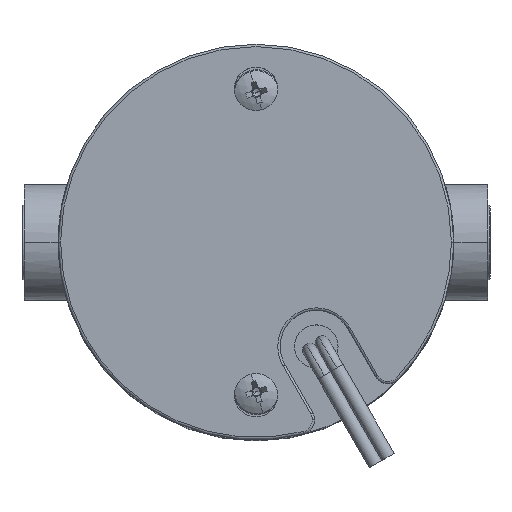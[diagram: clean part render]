
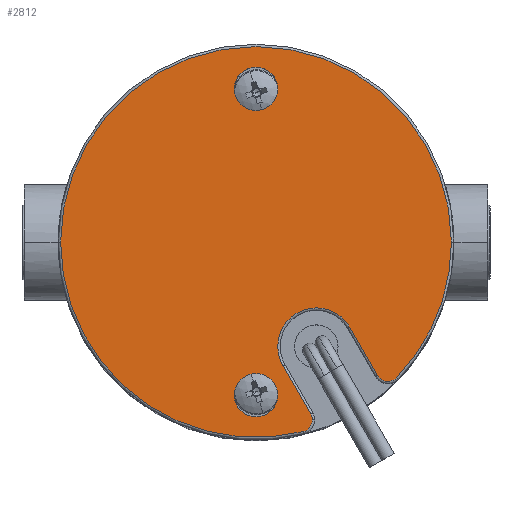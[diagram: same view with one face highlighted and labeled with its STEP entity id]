
A CAD part, top view. The second image highlights one B-rep face of the part: STEP entity #2812.
In plain terms, the highlighted planar face has unit normal (0, 0, 1).
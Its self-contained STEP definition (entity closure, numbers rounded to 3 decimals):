
#2 = DIRECTION ( 'NONE',  ( 1., 0., 0. ) ) ;
#6 = EDGE_CURVE ( 'NONE', #2225, #1074, #6711, .T. ) ;
#30 = CARTESIAN_POINT ( 'NONE',  ( 581.265, -185.174, 0. ) ) ;
#64 = AXIS2_PLACEMENT_3D ( 'NONE', #3112, #6365, #6334 ) ;
#202 = DIRECTION ( 'NONE',  ( 0., 0., -1. ) ) ;
#246 = DIRECTION ( 'NONE',  ( 0., 0., 1. ) ) ;
#337 = CARTESIAN_POINT ( 'NONE',  ( 595.535, -256.228, 0. ) ) ;
#383 = DIRECTION ( 'NONE',  ( 0., 0., 1. ) ) ;
#507 = VECTOR ( 'NONE', #2527, 1000. ) ;
#535 = ORIENTED_EDGE ( 'NONE', *, *, #2930, .T. ) ;
#591 = AXIS2_PLACEMENT_3D ( 'NONE', #3923, #656, #4481 ) ;
#635 = CARTESIAN_POINT ( 'NONE',  ( 545.265, -216.924, 0. ) ) ;
#656 = DIRECTION ( 'NONE',  ( 0., 0., 1. ) ) ;
#680 = LINE ( 'NONE', #5825, #507 ) ;
#683 = CARTESIAN_POINT ( 'NONE',  ( 594.932, -253.802, 0. ) ) ;
#684 = AXIS2_PLACEMENT_3D ( 'NONE', #1569, #5410, #2117 ) ;
#727 = EDGE_CURVE ( 'NONE', #6019, #2225, #5329, .T. ) ;
#792 = ORIENTED_EDGE ( 'NONE', *, *, #2720, .F. ) ;
#946 = CARTESIAN_POINT ( 'NONE',  ( 591.336, -242.575, 0. ) ) ;
#1023 = VECTOR ( 'NONE', #3247, 1000. ) ;
#1062 = CARTESIAN_POINT ( 'NONE',  ( 591.336, -242.575, 0. ) ) ;
#1074 = VERTEX_POINT ( 'NONE', #337 ) ;
#1093 = EDGE_CURVE ( 'NONE', #3130, #5616, #3029, .T. ) ;
#1129 = ORIENTED_EDGE ( 'NONE', *, *, #2247, .T. ) ;
#1241 = DIRECTION ( 'NONE',  ( 1., 0., 0. ) ) ;
#1347 = EDGE_CURVE ( 'NONE', #3001, #6037, #1736, .T. ) ;
#1484 = ORIENTED_EDGE ( 'NONE', *, *, #6, .T. ) ;
#1558 = CARTESIAN_POINT ( 'NONE',  ( 585.765, -248.674, 0. ) ) ;
#1569 = CARTESIAN_POINT ( 'NONE',  ( 585.765, -185.174, 0. ) ) ;
#1634 = CARTESIAN_POINT ( 'NONE',  ( 585.765, -185.174, 0. ) ) ;
#1671 = VERTEX_POINT ( 'NONE', #5750 ) ;
#1713 = AXIS2_PLACEMENT_3D ( 'NONE', #3509, #246, #4076 ) ;
#1736 = CIRCLE ( 'NONE', #3970, 2.5 ) ;
#1761 = VERTEX_POINT ( 'NONE', #30 ) ;
#1963 = ORIENTED_EDGE ( 'NONE', *, *, #4456, .T. ) ;
#2002 = AXIS2_PLACEMENT_3D ( 'NONE', #2752, #6575, #3298 ) ;
#2028 = VERTEX_POINT ( 'NONE', #946 ) ;
#2037 = FACE_BOUND ( 'NONE', #2243, .T. ) ;
#2110 = DIRECTION ( 'NONE',  ( 1., 0., 0. ) ) ;
#2117 = DIRECTION ( 'NONE',  ( 1., 0., 0. ) ) ;
#2184 = DIRECTION ( 'NONE',  ( 1., 0., 0. ) ) ;
#2225 = VERTEX_POINT ( 'NONE', #635 ) ;
#2243 = EDGE_LOOP ( 'NONE', ( #6631, #5256 ) ) ;
#2247 = EDGE_CURVE ( 'NONE', #3507, #6019, #4615, .T. ) ;
#2377 = CARTESIAN_POINT ( 'NONE',  ( 597.432, -253.802, 0. ) ) ;
#2387 = CIRCLE ( 'NONE', #2524, 4.5 ) ;
#2465 = LINE ( 'NONE', #1062, #1023 ) ;
#2524 = AXIS2_PLACEMENT_3D ( 'NONE', #1558, #5401, #2110 ) ;
#2527 = DIRECTION ( 'NONE',  ( 0.5, -0.866, 0. ) ) ;
#2656 = ORIENTED_EDGE ( 'NONE', *, *, #4790, .T. ) ;
#2720 = EDGE_CURVE ( 'NONE', #1761, #3404, #3058, .T. ) ;
#2752 = CARTESIAN_POINT ( 'NONE',  ( 585.765, -216.924, 0. ) ) ;
#2793 = CIRCLE ( 'NONE', #1713, 2.5 ) ;
#2807 = AXIS2_PLACEMENT_3D ( 'NONE', #683, #4510, #1241 ) ;
#2812 = ADVANCED_FACE ( 'NONE', ( #6230, #3314, #2037 ), #6027, .T. ) ;
#2930 = EDGE_CURVE ( 'NONE', #1074, #3001, #4708, .T. ) ;
#2965 = VERTEX_POINT ( 'NONE', #4541 ) ;
#3001 = VERTEX_POINT ( 'NONE', #2377 ) ;
#3029 = CIRCLE ( 'NONE', #64, 4.5 ) ;
#3031 = CARTESIAN_POINT ( 'NONE',  ( 594.932, -253.802, 0. ) ) ;
#3058 = CIRCLE ( 'NONE', #684, 4.5 ) ;
#3112 = CARTESIAN_POINT ( 'NONE',  ( 585.765, -248.674, 0. ) ) ;
#3130 = VERTEX_POINT ( 'NONE', #6806 ) ;
#3247 = DIRECTION ( 'NONE',  ( -0.5, 0.866, 0. ) ) ;
#3298 = DIRECTION ( 'NONE',  ( 1., 0., 0. ) ) ;
#3314 = FACE_BOUND ( 'NONE', #6338, .T. ) ;
#3404 = VERTEX_POINT ( 'NONE', #5125 ) ;
#3473 = CARTESIAN_POINT ( 'NONE',  ( 598.265, -238.575, 0. ) ) ;
#3489 = CIRCLE ( 'NONE', #5482, 4.5 ) ;
#3507 = VERTEX_POINT ( 'NONE', #3569 ) ;
#3509 = CARTESIAN_POINT ( 'NONE',  ( 613.118, -243.302, 0. ) ) ;
#3569 = CARTESIAN_POINT ( 'NONE',  ( 614.918, -245.038, 0. ) ) ;
#3644 = CARTESIAN_POINT ( 'NONE',  ( 585.765, -216.924, 0. ) ) ;
#3923 = CARTESIAN_POINT ( 'NONE',  ( 585.765, -216.924, 0. ) ) ;
#3939 = ORIENTED_EDGE ( 'NONE', *, *, #1347, .T. ) ;
#3959 = EDGE_CURVE ( 'NONE', #5616, #3130, #2387, .T. ) ;
#3970 = AXIS2_PLACEMENT_3D ( 'NONE', #3031, #5244, #6843 ) ;
#4031 = DIRECTION ( 'NONE',  ( 1., 0., 0. ) ) ;
#4054 = EDGE_CURVE ( 'NONE', #3404, #1761, #3489, .T. ) ;
#4076 = DIRECTION ( 'NONE',  ( 1., 0., 0. ) ) ;
#4145 = AXIS2_PLACEMENT_3D ( 'NONE', #3644, #383, #4204 ) ;
#4204 = DIRECTION ( 'NONE',  ( 1., 0., 0. ) ) ;
#4456 = EDGE_CURVE ( 'NONE', #1671, #2965, #680, .T. ) ;
#4481 = DIRECTION ( 'NONE',  ( 1., 0., 0. ) ) ;
#4486 = ORIENTED_EDGE ( 'NONE', *, *, #4054, .F. ) ;
#4499 = EDGE_LOOP ( 'NONE', ( #1963, #4759, #1129, #6208, #1484, #535, #3939, #2656, #6093 ) ) ;
#4510 = DIRECTION ( 'NONE',  ( 0., 0., 1. ) ) ;
#4541 = CARTESIAN_POINT ( 'NONE',  ( 610.953, -244.552, 0. ) ) ;
#4605 = CARTESIAN_POINT ( 'NONE',  ( 626.265, -216.924, 0. ) ) ;
#4615 = CIRCLE ( 'NONE', #591, 40.5 ) ;
#4708 = CIRCLE ( 'NONE', #2807, 2.5 ) ;
#4759 = ORIENTED_EDGE ( 'NONE', *, *, #5801, .T. ) ;
#4790 = EDGE_CURVE ( 'NONE', #6037, #2028, #2465, .T. ) ;
#5108 = CIRCLE ( 'NONE', #6970, 8. ) ;
#5125 = CARTESIAN_POINT ( 'NONE',  ( 590.265, -185.174, 0. ) ) ;
#5244 = DIRECTION ( 'NONE',  ( 0., 0., 1. ) ) ;
#5256 = ORIENTED_EDGE ( 'NONE', *, *, #1093, .F. ) ;
#5329 = CIRCLE ( 'NONE', #4145, 40.5 ) ;
#5401 = DIRECTION ( 'NONE',  ( 0., 0., 1. ) ) ;
#5410 = DIRECTION ( 'NONE',  ( 0., 0., 1. ) ) ;
#5475 = DIRECTION ( 'NONE',  ( 0., 0., 1. ) ) ;
#5482 = AXIS2_PLACEMENT_3D ( 'NONE', #1634, #5475, #2184 ) ;
#5530 = DIRECTION ( 'NONE',  ( 0., 0., 1. ) ) ;
#5565 = CARTESIAN_POINT ( 'NONE',  ( 590.265, -248.674, 0. ) ) ;
#5616 = VERTEX_POINT ( 'NONE', #5565 ) ;
#5708 = CARTESIAN_POINT ( 'NONE',  ( 597.097, -252.552, 0. ) ) ;
#5748 = EDGE_CURVE ( 'NONE', #2028, #1671, #5108, .T. ) ;
#5750 = CARTESIAN_POINT ( 'NONE',  ( 605.193, -234.575, 0. ) ) ;
#5801 = EDGE_CURVE ( 'NONE', #2965, #3507, #2793, .T. ) ;
#5825 = CARTESIAN_POINT ( 'NONE',  ( 610.953, -244.552, 0. ) ) ;
#6019 = VERTEX_POINT ( 'NONE', #4605 ) ;
#6027 = PLANE ( 'NONE',  #2002 ) ;
#6037 = VERTEX_POINT ( 'NONE', #5708 ) ;
#6093 = ORIENTED_EDGE ( 'NONE', *, *, #5748, .T. ) ;
#6208 = ORIENTED_EDGE ( 'NONE', *, *, #727, .T. ) ;
#6230 = FACE_OUTER_BOUND ( 'NONE', #4499, .T. ) ;
#6334 = DIRECTION ( 'NONE',  ( 1., 0., 0. ) ) ;
#6338 = EDGE_LOOP ( 'NONE', ( #4486, #792 ) ) ;
#6365 = DIRECTION ( 'NONE',  ( 0., 0., 1. ) ) ;
#6574 = CARTESIAN_POINT ( 'NONE',  ( 585.765, -216.924, 0. ) ) ;
#6575 = DIRECTION ( 'NONE',  ( 0., 0., 1. ) ) ;
#6631 = ORIENTED_EDGE ( 'NONE', *, *, #3959, .F. ) ;
#6681 = AXIS2_PLACEMENT_3D ( 'NONE', #6574, #5530, #2 ) ;
#6711 = CIRCLE ( 'NONE', #6681, 40.5 ) ;
#6806 = CARTESIAN_POINT ( 'NONE',  ( 581.265, -248.674, 0. ) ) ;
#6843 = DIRECTION ( 'NONE',  ( 1., 0., 0. ) ) ;
#6970 = AXIS2_PLACEMENT_3D ( 'NONE', #3473, #202, #4031 ) ;
